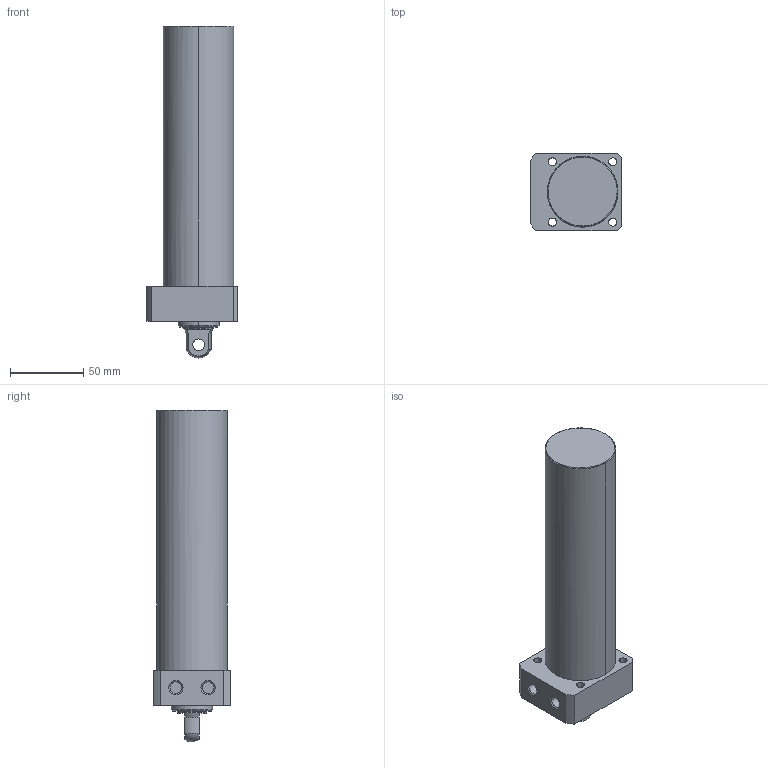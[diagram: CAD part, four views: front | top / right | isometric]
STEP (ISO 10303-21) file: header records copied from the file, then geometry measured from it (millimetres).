
FILE_DESCRIPTION((' '),'2;1');
FILE_NAME( 'TLLR-048CP-150.STEP.stp', '2025-10-24T16:34:41', (' '), ('--- Datakit www.datakit.com---'), ' Datakit CrossCadWare V2024.1 Dec 21 2023', 'Mastercam 2025', ' ');
FILE_SCHEMA(('AUTOMOTIVE_DESIGN { 1 0 10303 214 1 1 1 1 }'));
Length unit declared in the file: millimetre
Products named in the file (1): TLLR-048CP-150
Bounding box: 62 x 53 x 225.94 mm (x, y, z)
Volume: 399779.3 mm3; surface area: 42097.4 mm2
Topology: 1 solids, 1 shells, 57 faces, 164 edges, 116 vertices
Faces by surface type: cylinder 28, plane 18, cone 8, torus 2, sphere 1
Entity records: 2006 total; most frequent: DIRECTION 378, CARTESIAN_POINT 350, ORIENTED_EDGE 328, EDGE_CURVE 164, AXIS2_PLACEMENT_3D 160, VERTEX_POINT 116, CIRCLE 102, EDGE_LOOP 74
